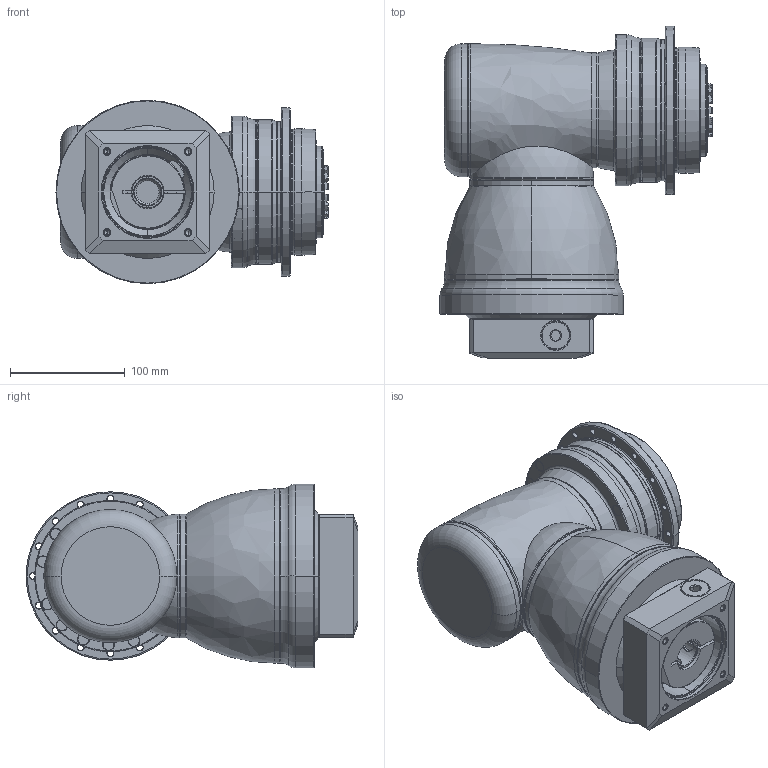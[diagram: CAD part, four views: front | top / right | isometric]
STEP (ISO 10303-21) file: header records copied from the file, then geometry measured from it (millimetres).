
FILE_DESCRIPTION((''),'2;1');
FILE_NAME('APCK110_2ST_SBG_24-P0409510201_ASM','2018-05-18T',('d01226'),(''),'PRO/ENGINEER BY PARAMETRIC TECHNOLOGY CORPORATION, 2008410','PRO/ENGINEER BY PARAMETRIC TECHNOLOGY CORPORATION, 2008410','');
FILE_SCHEMA(('CONFIG_CONTROL_DESIGN'));
Length unit declared in the file: millimetre
Products named in the file (13): P0278401003; P03594C0103; P1211400001; P1802410011; P1018500002; P1365500001; P1007501001; P1318501001; P0409510201; P0503500010; P0912550001; 21711418017; APCK110_2ST_SBG_24-P0409510201_ASM
Assembly tree (12 placements, depth 2):
  APCK110_2ST_SBG_24-P0409510201_ASM
    P0278401003
    P03594C0103
    P1211400001
    P1802410011
    P1018500002
    P1365500001
    P1007501001
    P1318501001
    P0409510201
    P0503500010
    P0912550001
    21711418017
Bounding box: 237.4 x 289.5 x 160 mm (x, y, z)
Volume: 4677549.3 mm3; surface area: 466720.6 mm2
Topology: 13 solids, 23 shells, 758 faces, 1797 edges, 1115 vertices
Faces by surface type: cylinder 265, cone 207, plane 159, torus 106, bspline 19, sphere 2
Entity records: 27905 total; most frequent: CARTESIAN_POINT 9746, DIRECTION 4112, ORIENTED_EDGE 3524, AXIS2_PLACEMENT_3D 1801, EDGE_CURVE 1783, VERTEX_POINT 1115, CIRCLE 1027, EDGE_LOOP 870
